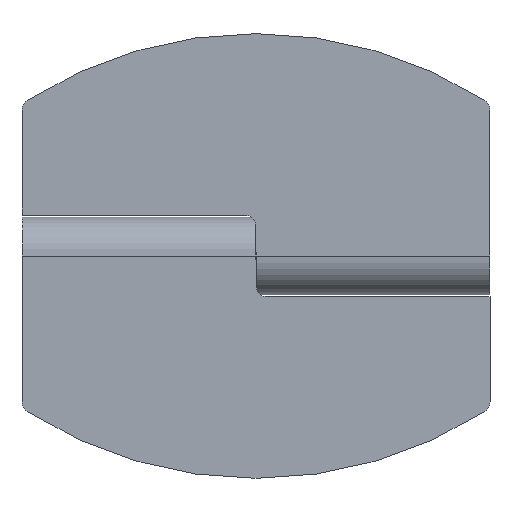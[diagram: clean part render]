
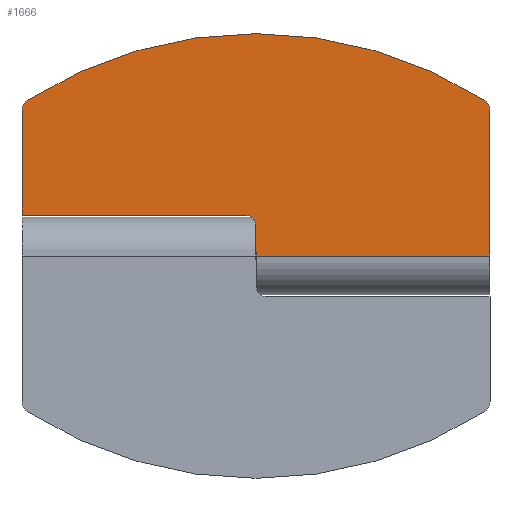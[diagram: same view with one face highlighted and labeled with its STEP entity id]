
A CAD part, left-side view. The second image highlights one B-rep face of the part: STEP entity #1666.
In plain terms, the highlighted planar face has unit normal (-1, 0, 0) as drawn and (0, 0, -1) by its records, which use the part's own axes.
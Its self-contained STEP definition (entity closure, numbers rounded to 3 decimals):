
#33 = CIRCLE ( 'NONE', #34, 36.333 ) ;
#34 = AXIS2_PLACEMENT_3D ( 'NONE', #36, #37, #38 ) ;
#36 = CARTESIAN_POINT ( 'NONE',  ( 17.333, 0., -3.3 ) ) ;
#37 = DIRECTION ( 'NONE',  ( 0., 0., -1. ) ) ;
#38 = DIRECTION ( 'NONE',  ( 1., 0., 0. ) ) ;
#98 = LINE ( 'NONE', #99, #100 ) ;
#99 = CARTESIAN_POINT ( 'NONE',  ( 0., 20., -3.3 ) ) ;
#100 = VECTOR ( 'NONE', #101, 1000. ) ;
#101 = DIRECTION ( 'NONE',  ( 0., -1., 0. ) ) ;
#514 = VERTEX_POINT ( 'NONE', #1543 ) ;
#518 = EDGE_CURVE ( 'NONE', #760, #606, #1559, .T. ) ;
#534 = EDGE_CURVE ( 'NONE', #645, #514, #33, .T. ) ;
#549 = EDGE_CURVE ( 'NONE', #760, #637, #98, .T. ) ;
#560 = ORIENTED_EDGE ( 'NONE', *, *, #518, .F. ) ;
#577 = ORIENTED_EDGE ( 'NONE', *, *, #534, .T. ) ;
#606 = VERTEX_POINT ( 'NONE', #783 ) ;
#629 = ORIENTED_EDGE ( 'NONE', *, *, #1643, .F. ) ;
#630 = EDGE_CURVE ( 'NONE', #1186, #606, #827, .T. ) ;
#637 = VERTEX_POINT ( 'NONE', #846 ) ;
#645 = VERTEX_POINT ( 'NONE', #879 ) ;
#660 = ORIENTED_EDGE ( 'NONE', *, *, #630, .T. ) ;
#666 = EDGE_CURVE ( 'NONE', #1593, #645, #976, .T. ) ;
#682 = VERTEX_POINT ( 'NONE', #1106 ) ;
#706 = ORIENTED_EDGE ( 'NONE', *, *, #666, .T. ) ;
#709 = EDGE_CURVE ( 'NONE', #514, #682, #1341, .T. ) ;
#749 = ORIENTED_EDGE ( 'NONE', *, *, #709, .T. ) ;
#750 = ORIENTED_EDGE ( 'NONE', *, *, #549, .T. ) ;
#760 = VERTEX_POINT ( 'NONE', #1542 ) ;
#783 = CARTESIAN_POINT ( 'NONE',  ( -2.5, 0., -3.3 ) ) ;
#784 = CARTESIAN_POINT ( 'NONE',  ( -12.457, -20., -3.3 ) ) ;
#827 = CIRCLE ( 'NONE', #828, 1. ) ;
#828 = AXIS2_PLACEMENT_3D ( 'NONE', #829, #830, #831 ) ;
#829 = CARTESIAN_POINT ( 'NONE',  ( -2.5, 1., -3.3 ) ) ;
#830 = DIRECTION ( 'NONE',  ( 0., 0., 1. ) ) ;
#831 = DIRECTION ( 'NONE',  ( 1., 0., 0. ) ) ;
#838 = LINE ( 'NONE', #839, #840 ) ;
#839 = CARTESIAN_POINT ( 'NONE',  ( 0., -20., -3.3 ) ) ;
#840 = VECTOR ( 'NONE', #841, 1000. ) ;
#841 = DIRECTION ( 'NONE',  ( -1., 0., 0. ) ) ;
#846 = CARTESIAN_POINT ( 'NONE',  ( 0., -20., -3.3 ) ) ;
#879 = CARTESIAN_POINT ( 'NONE',  ( -13.3, -19.538, -3.3 ) ) ;
#976 = CIRCLE ( 'NONE', #977, 1. ) ;
#977 = AXIS2_PLACEMENT_3D ( 'NONE', #978, #979, #980 ) ;
#978 = CARTESIAN_POINT ( 'NONE',  ( -12.457, -19., -3.3 ) ) ;
#979 = DIRECTION ( 'NONE',  ( 0., 0., -1. ) ) ;
#980 = DIRECTION ( 'NONE',  ( 1., 0., 0. ) ) ;
#1048 = CARTESIAN_POINT ( 'NONE',  ( -3.5, 20., -3.3 ) ) ;
#1106 = CARTESIAN_POINT ( 'NONE',  ( -12.457, 20., -3.3 ) ) ;
#1108 = CARTESIAN_POINT ( 'NONE',  ( -3.5, 1., -3.3 ) ) ;
#1186 = VERTEX_POINT ( 'NONE', #1108 ) ;
#1200 = LINE ( 'NONE', #1201, #1202 ) ;
#1201 = CARTESIAN_POINT ( 'NONE',  ( 0., 20., -3.3 ) ) ;
#1202 = VECTOR ( 'NONE', #1203, 1000. ) ;
#1203 = DIRECTION ( 'NONE',  ( -1., 0., 0. ) ) ;
#1341 = CIRCLE ( 'NONE', #1342, 1. ) ;
#1342 = AXIS2_PLACEMENT_3D ( 'NONE', #1343, #1346, #1347 ) ;
#1343 = CARTESIAN_POINT ( 'NONE',  ( -12.457, 19., -3.3 ) ) ;
#1346 = DIRECTION ( 'NONE',  ( 0., 0., -1. ) ) ;
#1347 = DIRECTION ( 'NONE',  ( 1., 0., 0. ) ) ;
#1352 = LINE ( 'NONE', #1353, #1354 ) ;
#1353 = CARTESIAN_POINT ( 'NONE',  ( -3.5, 20.001, -3.3 ) ) ;
#1354 = VECTOR ( 'NONE', #1355, 1000. ) ;
#1355 = DIRECTION ( 'NONE',  ( 0., -1., 0. ) ) ;
#1400 = EDGE_CURVE ( 'NONE', #1631, #1186, #1352, .T. ) ;
#1510 = FACE_OUTER_BOUND ( 'NONE', #1654, .T. ) ;
#1511 = PLANE ( 'NONE',  #1512 ) ;
#1512 = AXIS2_PLACEMENT_3D ( 'NONE', #1513, #1514, #1515 ) ;
#1513 = CARTESIAN_POINT ( 'NONE',  ( 0., 20., -3.3 ) ) ;
#1514 = DIRECTION ( 'NONE',  ( 0., 0., 1. ) ) ;
#1515 = DIRECTION ( 'NONE',  ( 1., 0., 0. ) ) ;
#1542 = CARTESIAN_POINT ( 'NONE',  ( 0., 0., -3.3 ) ) ;
#1543 = CARTESIAN_POINT ( 'NONE',  ( -13.3, 19.538, -3.3 ) ) ;
#1559 = LINE ( 'NONE', #1560, #1561 ) ;
#1560 = CARTESIAN_POINT ( 'NONE',  ( 0., 0., -3.3 ) ) ;
#1561 = VECTOR ( 'NONE', #1562, 1000. ) ;
#1562 = DIRECTION ( 'NONE',  ( -1., 0., 0. ) ) ;
#1593 = VERTEX_POINT ( 'NONE', #784 ) ;
#1601 = ORIENTED_EDGE ( 'NONE', *, *, #1400, .T. ) ;
#1605 = EDGE_CURVE ( 'NONE', #637, #1593, #838, .T. ) ;
#1628 = ORIENTED_EDGE ( 'NONE', *, *, #1605, .T. ) ;
#1631 = VERTEX_POINT ( 'NONE', #1048 ) ;
#1643 = EDGE_CURVE ( 'NONE', #1631, #682, #1200, .T. ) ;
#1654 = EDGE_LOOP ( 'NONE', ( #1628, #706, #577, #749, #629, #1601, #660, #560, #750 ) ) ;
#1666 = ADVANCED_FACE ( 'NONE', ( #1510 ), #1511, .F. ) ;
